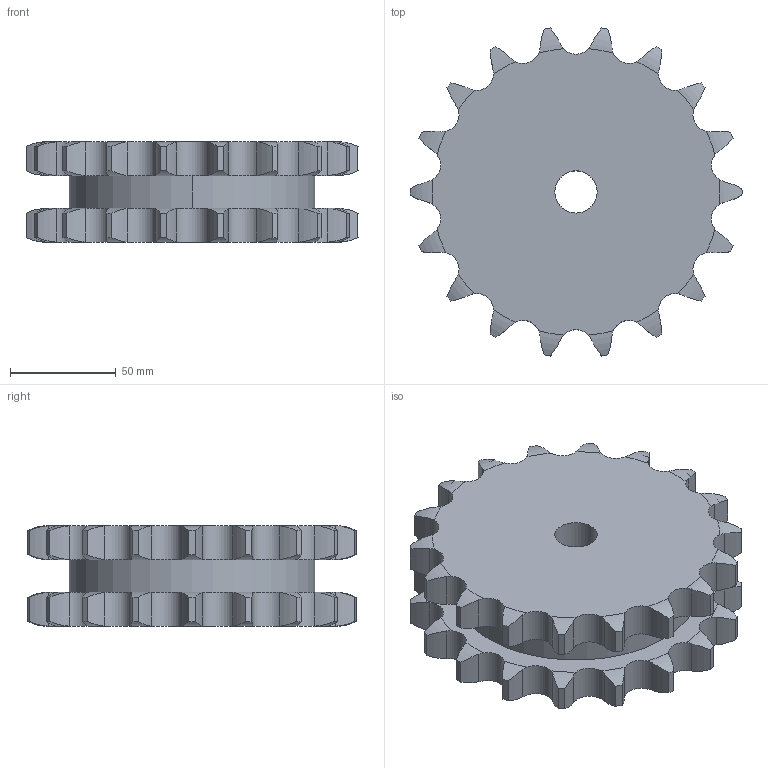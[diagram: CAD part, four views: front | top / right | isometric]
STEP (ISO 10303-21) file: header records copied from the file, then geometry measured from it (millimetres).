
FILE_DESCRIPTION((''),'2;1');
FILE_NAME('500-502-0018_PRT','2021-02-12T',('Brieden'),('Brieden'),'PRO/ENGINEER BY PARAMETRIC TECHNOLOGY CORPORATION, 2010160','PRO/ENGINEER BY PARAMETRIC TECHNOLOGY CORPORATION, 2010160','');
FILE_SCHEMA(('AUTOMOTIVE_DESIGN { 1 0 10303 214 1 1 1 1 }'));
Length unit declared in the file: millimetre
Products named in the file (1): 500-502-0018_PRT
Bounding box: 157 x 155.11 x 47.7 mm (x, y, z)
Volume: 648079.5 mm3; surface area: 70409.2 mm2
Topology: 1 solids, 1 shells, 224 faces, 660 edges, 440 vertices
Faces by surface type: cylinder 148, torus 72, plane 4
Entity records: 10731 total; most frequent: CARTESIAN_POINT 3052, ORIENTED_EDGE 1320, DIRECTION 1044, PRESENTATION_STYLE_ASSIGNMENT 661, STYLED_ITEM 661, CURVE_STYLE 660, EDGE_CURVE 660, AXIS2_PLACEMENT_3D 448
